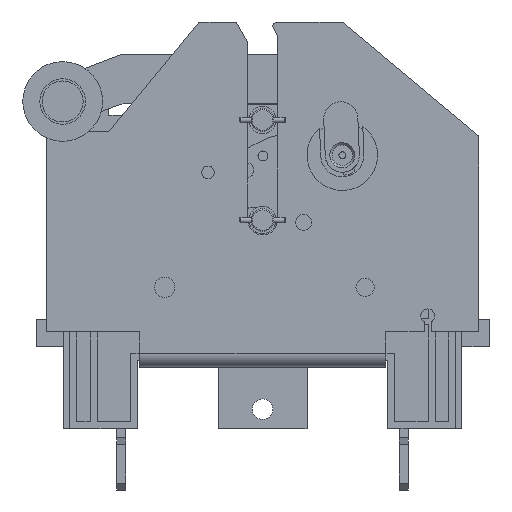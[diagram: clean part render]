
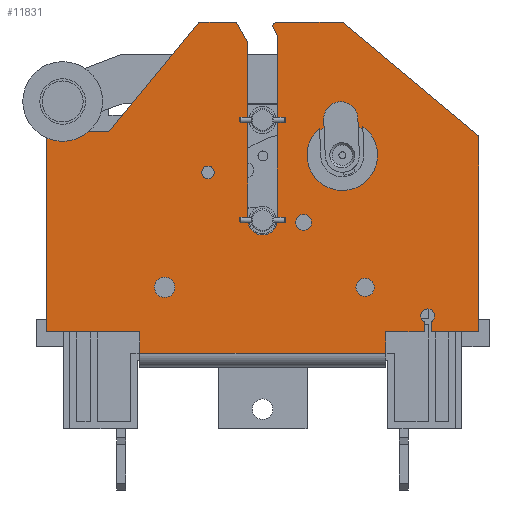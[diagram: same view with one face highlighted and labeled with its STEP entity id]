
A CAD part, left-side view. The second image highlights one B-rep face of the part: STEP entity #11831.
In plain terms, the highlighted planar face has unit normal (-1, 0, 0).
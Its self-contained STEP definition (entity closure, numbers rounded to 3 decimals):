
#8516=PLANE('',#61574);
#9646=FACE_BOUND('',#17912,.T.);
#9647=FACE_BOUND('',#17913,.T.);
#9648=FACE_BOUND('',#17914,.T.);
#9649=FACE_BOUND('',#17915,.T.);
#9650=FACE_BOUND('',#17916,.T.);
#9651=FACE_BOUND('',#17917,.T.);
#11831=ADVANCED_FACE('',(#9646,#9647,#9648,#9649,#9650,#9651),#8516,.T.);
#17912=EDGE_LOOP('',(#30502));
#17913=EDGE_LOOP('',(#30503));
#17914=EDGE_LOOP('',(#30504,#30505,#30506,#30507,#30508,#30509,#30510,#30511,
#30512,#30513,#30514,#30515,#30516,#30517,#30518,#30519,#30520,#30521,#30522,
#30523,#30524,#30525));
#17915=EDGE_LOOP('',(#30526));
#17916=EDGE_LOOP('',(#30527));
#17917=EDGE_LOOP('',(#30528));
#20133=CIRCLE('',#61566,10.5);
#20134=CIRCLE('',#61567,3.5);
#20135=CIRCLE('',#61568,3.);
#20136=CIRCLE('',#61569,2.);
#20137=CIRCLE('',#61570,6.5);
#20138=CIRCLE('',#61571,2.75);
#20139=CIRCLE('',#61572,4.5);
#20140=CIRCLE('',#61573,4.);
#30502=ORIENTED_EDGE('',*,*,#45372,.F.);
#30503=ORIENTED_EDGE('',*,*,#45373,.T.);
#30504=ORIENTED_EDGE('',*,*,#45374,.T.);
#30505=ORIENTED_EDGE('',*,*,#45375,.T.);
#30506=ORIENTED_EDGE('',*,*,#45290,.F.);
#30507=ORIENTED_EDGE('',*,*,#45362,.F.);
#30508=ORIENTED_EDGE('',*,*,#45376,.T.);
#30509=ORIENTED_EDGE('',*,*,#45377,.T.);
#30510=ORIENTED_EDGE('',*,*,#45378,.T.);
#30511=ORIENTED_EDGE('',*,*,#45379,.F.);
#30512=ORIENTED_EDGE('',*,*,#45380,.F.);
#30513=ORIENTED_EDGE('',*,*,#45381,.F.);
#30514=ORIENTED_EDGE('',*,*,#45382,.F.);
#30515=ORIENTED_EDGE('',*,*,#45383,.T.);
#30516=ORIENTED_EDGE('',*,*,#45384,.T.);
#30517=ORIENTED_EDGE('',*,*,#45385,.T.);
#30518=ORIENTED_EDGE('',*,*,#45344,.T.);
#30519=ORIENTED_EDGE('',*,*,#45386,.T.);
#30520=ORIENTED_EDGE('',*,*,#45387,.F.);
#30521=ORIENTED_EDGE('',*,*,#45388,.T.);
#30522=ORIENTED_EDGE('',*,*,#45389,.T.);
#30523=ORIENTED_EDGE('',*,*,#45368,.F.);
#30524=ORIENTED_EDGE('',*,*,#45296,.F.);
#30525=ORIENTED_EDGE('',*,*,#45390,.F.);
#30526=ORIENTED_EDGE('',*,*,#45391,.T.);
#30527=ORIENTED_EDGE('',*,*,#45392,.F.);
#30528=ORIENTED_EDGE('',*,*,#45393,.F.);
#38796=VERTEX_POINT('',#87731);
#38797=VERTEX_POINT('',#87732);
#38802=VERTEX_POINT('',#87743);
#38803=VERTEX_POINT('',#87745);
#38846=VERTEX_POINT('',#87836);
#38847=VERTEX_POINT('',#87838);
#38864=VERTEX_POINT('',#87875);
#38865=VERTEX_POINT('',#87888);
#38866=VERTEX_POINT('',#87895);
#38867=VERTEX_POINT('',#87897);
#38868=VERTEX_POINT('',#87899);
#38869=VERTEX_POINT('',#87900);
#38870=VERTEX_POINT('',#87903);
#38871=VERTEX_POINT('',#87905);
#38872=VERTEX_POINT('',#87907);
#38873=VERTEX_POINT('',#87909);
#38874=VERTEX_POINT('',#87911);
#38875=VERTEX_POINT('',#87913);
#38876=VERTEX_POINT('',#87915);
#38877=VERTEX_POINT('',#87917);
#38878=VERTEX_POINT('',#87919);
#38879=VERTEX_POINT('',#87922);
#38880=VERTEX_POINT('',#87924);
#38881=VERTEX_POINT('',#87926);
#38882=VERTEX_POINT('',#87930);
#38883=VERTEX_POINT('',#87932);
#38884=VERTEX_POINT('',#87934);
#45290=EDGE_CURVE('',#38796,#38797,#51790,.T.);
#45296=EDGE_CURVE('',#38802,#38803,#51796,.T.);
#45344=EDGE_CURVE('',#38846,#38847,#51835,.T.);
#45362=EDGE_CURVE('',#38864,#38796,#51849,.T.);
#45368=EDGE_CURVE('',#38803,#38865,#51855,.T.);
#45372=EDGE_CURVE('',#38866,#38866,#20133,.T.);
#45373=EDGE_CURVE('',#38867,#38867,#20134,.T.);
#45374=EDGE_CURVE('',#38868,#38869,#20135,.T.);
#45375=EDGE_CURVE('',#38869,#38797,#51857,.T.);
#45376=EDGE_CURVE('',#38864,#38870,#51858,.T.);
#45377=EDGE_CURVE('',#38870,#38871,#51859,.T.);
#45378=EDGE_CURVE('',#38871,#38872,#20136,.T.);
#45379=EDGE_CURVE('',#38873,#38872,#51860,.T.);
#45380=EDGE_CURVE('',#38874,#38873,#51861,.T.);
#45381=EDGE_CURVE('',#38875,#38874,#20137,.T.);
#45382=EDGE_CURVE('',#38876,#38875,#51862,.T.);
#45383=EDGE_CURVE('',#38876,#38877,#51863,.T.);
#45384=EDGE_CURVE('',#38877,#38878,#51864,.T.);
#45385=EDGE_CURVE('',#38878,#38846,#51865,.T.);
#45386=EDGE_CURVE('',#38847,#38879,#51866,.T.);
#45387=EDGE_CURVE('',#38880,#38879,#51867,.T.);
#45388=EDGE_CURVE('',#38880,#38881,#51868,.T.);
#45389=EDGE_CURVE('',#38881,#38865,#51869,.T.);
#45390=EDGE_CURVE('',#38868,#38802,#51870,.T.);
#45391=EDGE_CURVE('',#38882,#38882,#20138,.T.);
#45392=EDGE_CURVE('',#38883,#38883,#20139,.T.);
#45393=EDGE_CURVE('',#38884,#38884,#20140,.T.);
#51790=LINE('',#87730,#57369);
#51796=LINE('',#87744,#57375);
#51835=LINE('',#87839,#57414);
#51849=LINE('',#87876,#57428);
#51855=LINE('',#87887,#57434);
#51857=LINE('',#87901,#57436);
#51858=LINE('',#87902,#57437);
#51859=LINE('',#87904,#57438);
#51860=LINE('',#87908,#57439);
#51861=LINE('',#87910,#57440);
#51862=LINE('',#87914,#57441);
#51863=LINE('',#87916,#57442);
#51864=LINE('',#87918,#57443);
#51865=LINE('',#87920,#57444);
#51866=LINE('',#87921,#57445);
#51867=LINE('',#87923,#57446);
#51868=LINE('',#87925,#57447);
#51869=LINE('',#87927,#57448);
#51870=LINE('',#87928,#57449);
#57369=VECTOR('',#72363,1.);
#57375=VECTOR('',#72371,1.);
#57414=VECTOR('',#72432,1.);
#57428=VECTOR('',#72458,1.);
#57434=VECTOR('',#72474,1.);
#57436=VECTOR('',#72490,1.);
#57437=VECTOR('',#72491,1.);
#57438=VECTOR('',#72492,1.);
#57439=VECTOR('',#72495,1.);
#57440=VECTOR('',#72496,1.);
#57441=VECTOR('',#72499,1.);
#57442=VECTOR('',#72500,1.);
#57443=VECTOR('',#72501,1.);
#57444=VECTOR('',#72502,1.);
#57445=VECTOR('',#72503,1.);
#57446=VECTOR('',#72504,1.);
#57447=VECTOR('',#72505,1.);
#57448=VECTOR('',#72506,1.);
#57449=VECTOR('',#72507,1.);
#61566=AXIS2_PLACEMENT_3D('',#87894,#72484,#72485);
#61567=AXIS2_PLACEMENT_3D('',#87896,#72486,#72487);
#61568=AXIS2_PLACEMENT_3D('',#87898,#72488,#72489);
#61569=AXIS2_PLACEMENT_3D('',#87906,#72493,#72494);
#61570=AXIS2_PLACEMENT_3D('',#87912,#72497,#72498);
#61571=AXIS2_PLACEMENT_3D('',#87929,#72508,#72509);
#61572=AXIS2_PLACEMENT_3D('',#87931,#72510,#72511);
#61573=AXIS2_PLACEMENT_3D('',#87933,#72512,#72513);
#61574=AXIS2_PLACEMENT_3D('',#87935,#72514,#72515);
#72363=DIRECTION('',(0.,1.,0.));
#72371=DIRECTION('',(0.,1.,0.));
#72432=DIRECTION('',(0.,1.,0.));
#72458=DIRECTION('',(0.,0.,-1.));
#72474=DIRECTION('',(0.,0.,-1.));
#72484=DIRECTION('',(-1.,0.,0.));
#72485=DIRECTION('',(0.,0.,1.));
#72486=DIRECTION('',(1.,0.,0.));
#72487=DIRECTION('',(0.,0.,1.));
#72488=DIRECTION('',(1.,0.,0.));
#72489=DIRECTION('',(0.,-1.,0.));
#72490=DIRECTION('',(0.,0.,-1.));
#72491=DIRECTION('',(0.,0.768,0.64));
#72492=DIRECTION('',(0.,1.,0.));
#72493=DIRECTION('',(-1.,0.,0.));
#72494=DIRECTION('',(0.,0.,-1.));
#72495=DIRECTION('',(0.,0.447,0.894));
#72496=DIRECTION('',(0.,0.,1.));
#72497=DIRECTION('',(-1.,0.,0.));
#72498=DIRECTION('',(0.,0.,-1.));
#72499=DIRECTION('',(0.,0.,-1.));
#72500=DIRECTION('',(0.,0.486,0.874));
#72501=DIRECTION('',(0.,1.,0.));
#72502=DIRECTION('',(0.,0.635,-0.772));
#72503=DIRECTION('',(0.,0.,-1.));
#72504=DIRECTION('',(0.,1.,0.));
#72505=DIRECTION('',(0.,0.,-1.));
#72506=DIRECTION('',(0.,-1.,0.));
#72507=DIRECTION('',(0.,0.,-1.));
#72508=DIRECTION('',(1.,0.,0.));
#72509=DIRECTION('',(0.,0.,-1.));
#72510=DIRECTION('',(-1.,0.,0.));
#72511=DIRECTION('',(0.,0.,-1.));
#72512=DIRECTION('',(-1.,0.,0.));
#72513=DIRECTION('',(0.,0.,1.));
#72514=DIRECTION('',(-1.,0.,0.));
#72515=DIRECTION('',(0.,0.,1.));
#87730=CARTESIAN_POINT('',(138.462,46.807,-30.5));
#87731=CARTESIAN_POINT('',(138.462,-11.943,-30.5));
#87732=CARTESIAN_POINT('',(138.462,9.057,-30.5));
#87743=CARTESIAN_POINT('',(138.462,12.057,-30.5));
#87744=CARTESIAN_POINT('',(138.462,46.807,-30.5));
#87745=CARTESIAN_POINT('',(138.462,29.057,-30.5));
#87836=CARTESIAN_POINT('',(138.462,150.557,57.5));
#87838=CARTESIAN_POINT('',(138.462,178.057,57.5));
#87839=CARTESIAN_POINT('',(138.462,46.807,57.5));
#87875=CARTESIAN_POINT('',(138.462,-11.943,55.5));
#87876=CARTESIAN_POINT('',(138.462,-11.943,105.5));
#87887=CARTESIAN_POINT('',(138.462,29.057,105.5));
#87888=CARTESIAN_POINT('',(138.462,29.057,-40.));
#87894=CARTESIAN_POINT('',(138.462,48.057,47.));
#87895=CARTESIAN_POINT('',(138.462,48.057,57.5));
#87896=CARTESIAN_POINT('',(138.462,65.057,17.5));
#87897=CARTESIAN_POINT('',(138.462,65.057,21.));
#87898=CARTESIAN_POINT('',(138.462,10.557,-23.5));
#87899=CARTESIAN_POINT('',(138.462,12.057,-26.098));
#87900=CARTESIAN_POINT('',(138.462,9.057,-26.098));
#87901=CARTESIAN_POINT('',(138.462,9.057,-15.5));
#87902=CARTESIAN_POINT('',(138.462,47.319,104.885));
#87903=CARTESIAN_POINT('',(138.462,48.057,105.5));
#87904=CARTESIAN_POINT('',(138.462,46.807,105.5));
#87905=CARTESIAN_POINT('',(138.462,76.557,105.5));
#87906=CARTESIAN_POINT('',(138.462,76.557,103.5));
#87907=CARTESIAN_POINT('',(138.462,78.557,103.5));
#87908=CARTESIAN_POINT('',(138.462,73.007,92.4));
#87909=CARTESIAN_POINT('',(138.462,76.557,99.5));
#87910=CARTESIAN_POINT('',(138.462,76.557,105.5));
#87911=CARTESIAN_POINT('',(138.462,76.557,18.5));
#87912=CARTESIAN_POINT('',(138.462,83.057,18.5));
#87913=CARTESIAN_POINT('',(138.462,89.557,18.5));
#87914=CARTESIAN_POINT('',(138.462,89.557,105.5));
#87915=CARTESIAN_POINT('',(138.462,89.557,96.5));
#87916=CARTESIAN_POINT('',(138.462,83.295,85.229));
#87917=CARTESIAN_POINT('',(138.462,94.557,105.5));
#87918=CARTESIAN_POINT('',(138.462,46.807,105.5));
#87919=CARTESIAN_POINT('',(138.462,111.057,105.5));
#87920=CARTESIAN_POINT('',(138.462,85.115,137.024));
#87921=CARTESIAN_POINT('',(138.462,178.057,105.5));
#87922=CARTESIAN_POINT('',(138.462,178.057,-30.5));
#87923=CARTESIAN_POINT('',(138.462,46.807,-30.5));
#87924=CARTESIAN_POINT('',(138.462,137.057,-30.5));
#87925=CARTESIAN_POINT('',(138.462,137.057,105.5));
#87926=CARTESIAN_POINT('',(138.462,137.057,-40.));
#87927=CARTESIAN_POINT('',(138.462,29.057,-40.));
#87928=CARTESIAN_POINT('',(138.462,12.057,-15.5));
#87929=CARTESIAN_POINT('',(138.462,107.057,39.5));
#87930=CARTESIAN_POINT('',(138.462,107.057,36.75));
#87931=CARTESIAN_POINT('',(138.462,126.057,-11.));
#87932=CARTESIAN_POINT('',(138.462,126.057,-15.5));
#87933=CARTESIAN_POINT('',(138.462,38.057,-11.));
#87934=CARTESIAN_POINT('',(138.462,38.057,-7.));
#87935=CARTESIAN_POINT('',(138.462,46.807,105.5));
